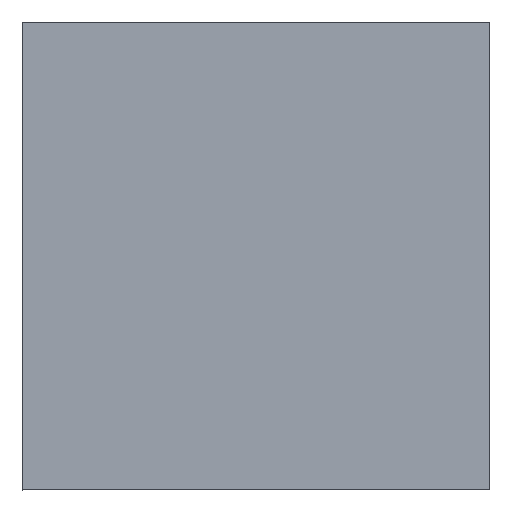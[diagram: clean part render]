
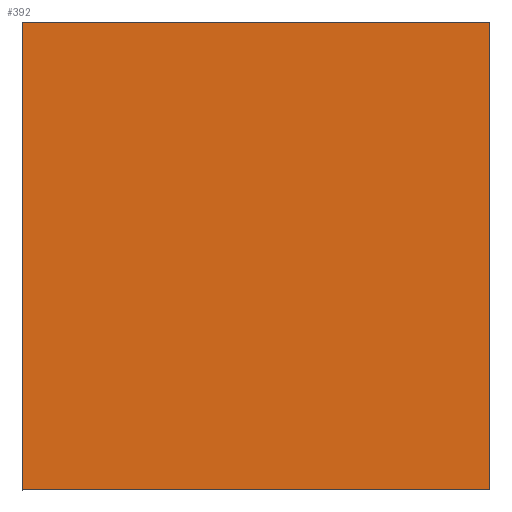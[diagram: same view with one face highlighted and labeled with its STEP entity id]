
A CAD part, top view. The second image highlights one B-rep face of the part: STEP entity #392.
In plain terms, the highlighted planar face has unit normal (0, 0, 1).
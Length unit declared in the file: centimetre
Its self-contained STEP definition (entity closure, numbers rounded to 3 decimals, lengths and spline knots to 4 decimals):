
#14 = CARTESIAN_POINT ( 'NONE',  ( 0., 1000., 1000. ) ) ;
#22 = DIRECTION ( 'NONE',  ( -1., 0., 0. ) ) ;
#59 = DIRECTION ( 'NONE',  ( 0., -1., 0. ) ) ;
#62 = ORIENTED_EDGE ( 'NONE', *, *, #469, .T. ) ;
#172 = CARTESIAN_POINT ( 'NONE',  ( 0., 1000., 1000. ) ) ;
#185 = AXIS2_PLACEMENT_3D ( 'NONE', #278, #478, #239 ) ;
#239 = DIRECTION ( 'NONE',  ( 1., 0., 0. ) ) ;
#248 = EDGE_LOOP ( 'NONE', ( #301, #336, #62, #455 ) ) ;
#263 = DIRECTION ( 'NONE',  ( 0., 1., 0. ) ) ;
#268 = CARTESIAN_POINT ( 'NONE',  ( 0., 0., 1000. ) ) ;
#273 = PLANE ( 'NONE',  #185 ) ;
#278 = CARTESIAN_POINT ( 'NONE',  ( 0., 0., 1000. ) ) ;
#286 = VERTEX_POINT ( 'NONE', #349 ) ;
#301 = ORIENTED_EDGE ( 'NONE', *, *, #331, .T. ) ;
#307 = CARTESIAN_POINT ( 'NONE',  ( 1000., 1000., 1000. ) ) ;
#316 = LINE ( 'NONE', #472, #483 ) ;
#331 = EDGE_CURVE ( 'NONE', #366, #333, #477, .T. ) ;
#333 = VERTEX_POINT ( 'NONE', #404 ) ;
#336 = ORIENTED_EDGE ( 'NONE', *, *, #475, .T. ) ;
#341 = EDGE_CURVE ( 'NONE', #286, #366, #316, .T. ) ;
#349 = CARTESIAN_POINT ( 'NONE',  ( 1000., 1000., 1000. ) ) ;
#353 = LINE ( 'NONE', #307, #496 ) ;
#366 = VERTEX_POINT ( 'NONE', #172 ) ;
#392 = ADVANCED_FACE ( 'NONE', ( #473 ), #273, .T. ) ;
#393 = CARTESIAN_POINT ( 'NONE',  ( 1000., 0., 1000. ) ) ;
#404 = CARTESIAN_POINT ( 'NONE',  ( 0., 0., 1000. ) ) ;
#425 = LINE ( 'NONE', #268, #445 ) ;
#434 = DIRECTION ( 'NONE',  ( 1., 0., 0. ) ) ;
#445 = VECTOR ( 'NONE', #434, 100. ) ;
#454 = VECTOR ( 'NONE', #59, 100. ) ;
#455 = ORIENTED_EDGE ( 'NONE', *, *, #341, .T. ) ;
#469 = EDGE_CURVE ( 'NONE', #484, #286, #353, .T. ) ;
#472 = CARTESIAN_POINT ( 'NONE',  ( 0., 1000., 1000. ) ) ;
#473 = FACE_OUTER_BOUND ( 'NONE', #248, .T. ) ;
#475 = EDGE_CURVE ( 'NONE', #333, #484, #425, .T. ) ;
#477 = LINE ( 'NONE', #14, #454 ) ;
#478 = DIRECTION ( 'NONE',  ( 0., 0., 1. ) ) ;
#483 = VECTOR ( 'NONE', #22, 100. ) ;
#484 = VERTEX_POINT ( 'NONE', #393 ) ;
#496 = VECTOR ( 'NONE', #263, 100. ) ;
